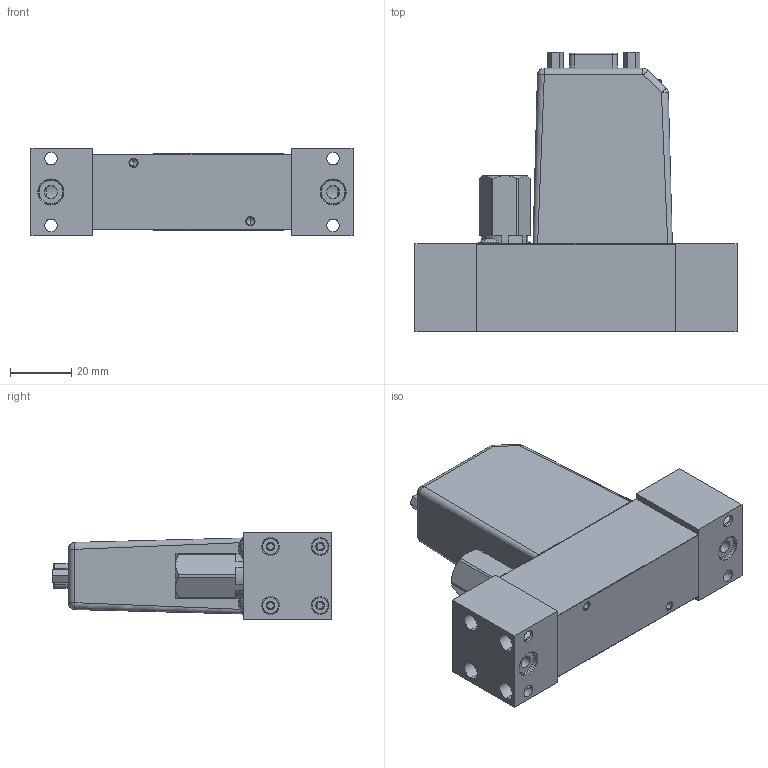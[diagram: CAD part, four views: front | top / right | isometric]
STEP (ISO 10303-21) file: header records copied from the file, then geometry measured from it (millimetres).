
FILE_DESCRIPTION (( 'STEP AP203' ), '1' );
FILE_NAME ('129275-_Publikationsmodell SFC5400_downmount.step', '2018-01-04T13:39:16', ( 'IT' ), ( '' ), 'SwSTEP 2.0', 'SolidWorks 2017', '' );
FILE_SCHEMA (( 'CONFIG_CONTROL_DESIGN' ));
Length unit declared in the file: millimetre
Products named in the file (4): 129048; M03-0011_00; 05_Zylinderschraube mit Innensechsrund ISO 14580_M03x08; 129275-_Publikationsmodell SFC5400_downmount
Assembly tree (11 placements, depth 2):
  129275-_Publikationsmodell SFC5400_downmount
    129048
    M03-0011_00  x2
    05_Zylinderschraube mit Innensechsrund ISO 14580_M03x08  x8
Bounding box: 105 x 91.2 x 28.5 mm (x, y, z)
Volume: 132172.5 mm3; surface area: 32556.8 mm2
Topology: 11 solids, 13 shells, 1239 faces, 3296 edges, 2097 vertices
Faces by surface type: plane 706, cylinder 328, cone 144, torus 45, bspline 12, sphere 4
Entity records: 31306 total; most frequent: CARTESIAN_POINT 6600, ORIENTED_EDGE 5134, DIRECTION 4815, EDGE_CURVE 2567, LINE 2027, VECTOR 2027, VERTEX_POINT 1654, AXIS2_PLACEMENT_3D 1394
